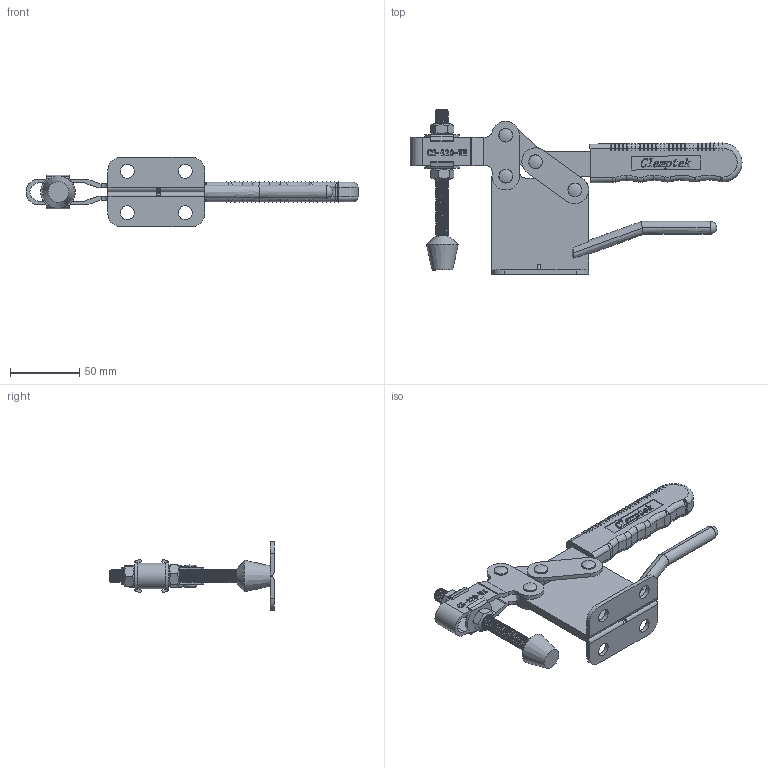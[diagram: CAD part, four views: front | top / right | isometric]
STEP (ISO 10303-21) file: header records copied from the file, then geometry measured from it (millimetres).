
FILE_DESCRIPTION(/* description */ ('STEP AP203'),/* implementation_level */ '2;1');
FILE_NAME(/* name */ 'E:\STRONA\Horizontal toggle clamp\CH-220-WH\CH-220-WH_ZAMKNIETY.stp',/* time_stamp */ '2019-01-15T15:44:57+01:00',/* author */ ('Admin'),/* organization */ ('Î¢ÈíÖÐ¹ú'),/* preprocessor_version */ 'ST-DEVELOPER v17.2',/* originating_system */ 'Autodesk Inventor 2019',/* authorisation */ '');
FILE_SCHEMA (('AUTOMOTIVE_DESIGN { 1 0 10303 214 3 1 1 }'));
Products named in the file (10): CH-220-WH_ZAMKNIETY; 220-WH-02; 200-W-03; 200-W-04; 200-W-05; 220-WLH-01-05_Ä¬ÈÏ_°´¼Ó
¹¤_; 38312-01; 200-W-06; 38412; FW380
Assembly tree (15 placements, depth 2):
  CH-220-WH_ZAMKNIETY
    200-W-05  x4
    FW380  x2
    220-WH-02
    200-W-04  x2
    200-W-03
    38312-01  x2
    220-WLH-01-05_Ä¬ÈÏ_°´¼Ó
¹¤_
    200-W-06
    38412
Bounding box: 240.39 x 119.07 x 50 mm (x, y, z)
Volume: 128102.6 mm3; surface area: 70562.1 mm2
Topology: 15 solids, 16 shells, 1419 faces, 3807 edges, 2474 vertices
Faces by surface type: plane 624, bspline 348, cylinder 303, torus 92, cone 41, sphere 11
Full cylindrical faces by diameter (mm): 3 x1, 4 x1, 5 x4, 6.3 x4, 6.4 x12, 9.5 x60, 9.8 x2, 10 x12, 13.856 x1
Entity records: 87330 total; most frequent: CARTESIAN_POINT 55953, ORIENTED_EDGE 7112, DIRECTION 5302, EDGE_CURVE 3556, VERTEX_POINT 2301, LINE 2098, VECTOR 2098, AXIS2_PLACEMENT_3D 1602
